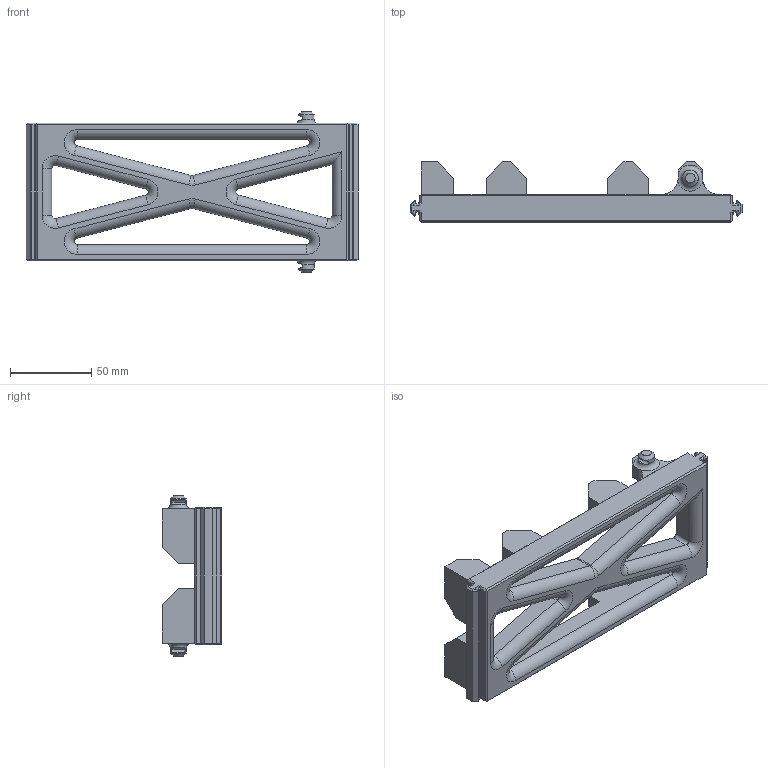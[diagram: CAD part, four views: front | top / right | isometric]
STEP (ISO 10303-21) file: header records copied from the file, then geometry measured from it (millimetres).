
FILE_DESCRIPTION(/* description */ ('STEP AP242 Edition 2','CAx-IF Rec.Pracs.---Representation and Presentation of Product Manufacturing Information (PMI)---4.0---2014-10-13','CAx-IF Rec.Pracs.---3D Tessellated Geometry---0.4---2014-09-14','2;1','CAx-IF Rec.Pracs.---User Defined Attributes---1.5---2016-08-15'),/* implementation_level */ '2;1');
FILE_NAME(/* name */ 'Tarok - Total Assemply - Lower Battery Holder',/* time_stamp */ '2026-05-23T09:34:07Z',/* author */ (''),/* organization */ (''),/* preprocessor_version */ 'ST-DEVELOPER v20',/* originating_system */ 'ONSHAPE BY PTC INC, 1.215',/* authorisation */ ' ');
FILE_SCHEMA (('AP242_MANAGED_MODEL_BASED_3D_ENGINEERING_MIM_LF { 1 0 10303 442 3 1 4 }'));
Length unit declared in the file: metre
Products named in the file (1): Lower Battery Holder
Bounding box: 204.8 x 37 x 99 mm (x, y, z)
Volume: 211762.9 mm3; surface area: 56094.4 mm2
Topology: 1 solids, 1 shells, 220 faces, 577 edges, 356 vertices
Faces by surface type: plane 171, cylinder 34, torus 13, cone 2
Full cylindrical faces by diameter (mm): 10 x2
Entity records: 6563 total; most frequent: CARTESIAN_POINT 1200, ORIENTED_EDGE 1130, DIRECTION 1063, EDGE_CURVE 565, LINE 467, VECTOR 467, VERTEX_POINT 351, AXIS2_PLACEMENT_3D 298
